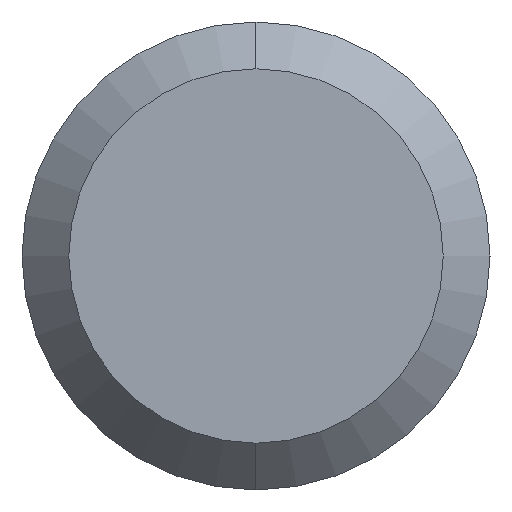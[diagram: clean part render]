
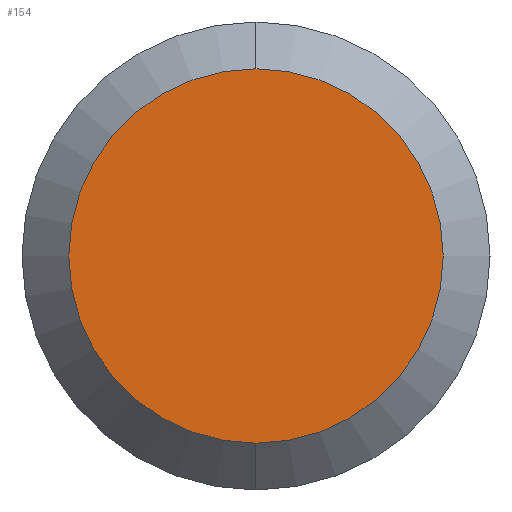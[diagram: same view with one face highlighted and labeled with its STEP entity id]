
A CAD part, left-side view. The second image highlights one B-rep face of the part: STEP entity #154.
In plain terms, the highlighted planar face has unit normal (-1, 0, 0).
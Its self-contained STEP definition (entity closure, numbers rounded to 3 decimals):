
#13 = VERTEX_POINT ( 'NONE', #295 ) ;
#63 = VERTEX_POINT ( 'NONE', #196 ) ;
#64 = ORIENTED_EDGE ( 'NONE', *, *, #273, .T. ) ;
#72 = DIRECTION ( 'NONE',  ( 0., 0., 1. ) ) ;
#73 = DIRECTION ( 'NONE',  ( -1., 0., 0. ) ) ;
#75 = CARTESIAN_POINT ( 'NONE',  ( 0., 0., 0. ) ) ;
#101 = EDGE_LOOP ( 'NONE', ( #108, #64 ) ) ;
#108 = ORIENTED_EDGE ( 'NONE', *, *, #208, .T. ) ;
#148 = DIRECTION ( 'NONE',  ( 0., 0., 1. ) ) ;
#152 = AXIS2_PLACEMENT_3D ( 'NONE', #199, #219, #148 ) ;
#154 = ADVANCED_FACE ( 'NONE', ( #268 ), #223, .F. ) ;
#196 = CARTESIAN_POINT ( 'NONE',  ( 0., 0., -1.6 ) ) ;
#199 = CARTESIAN_POINT ( 'NONE',  ( 0., 0., 0. ) ) ;
#208 = EDGE_CURVE ( 'NONE', #63, #13, #258, .T. ) ;
#219 = DIRECTION ( 'NONE',  ( -1., 0., 0. ) ) ;
#223 = PLANE ( 'NONE',  #364 ) ;
#240 = DIRECTION ( 'NONE',  ( 0., 0., -1. ) ) ;
#243 = DIRECTION ( 'NONE',  ( 1., 0., 0. ) ) ;
#256 = CARTESIAN_POINT ( 'NONE',  ( 0., 0., 0. ) ) ;
#258 = CIRCLE ( 'NONE', #379, 1.6 ) ;
#268 = FACE_OUTER_BOUND ( 'NONE', #101, .T. ) ;
#273 = EDGE_CURVE ( 'NONE', #13, #63, #367, .T. ) ;
#295 = CARTESIAN_POINT ( 'NONE',  ( 0., 0., 1.6 ) ) ;
#364 = AXIS2_PLACEMENT_3D ( 'NONE', #256, #243, #240 ) ;
#367 = CIRCLE ( 'NONE', #152, 1.6 ) ;
#379 = AXIS2_PLACEMENT_3D ( 'NONE', #75, #73, #72 ) ;
